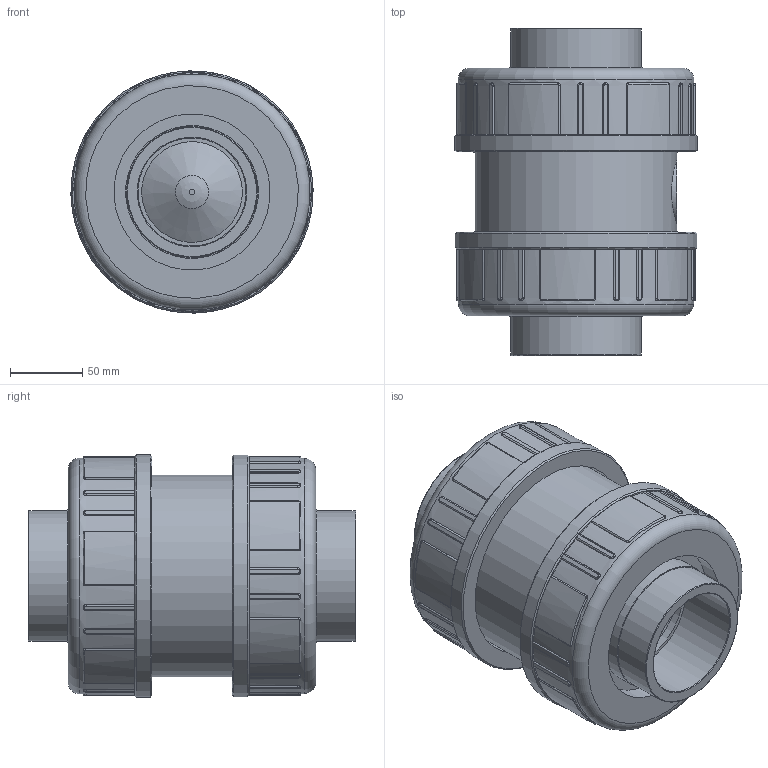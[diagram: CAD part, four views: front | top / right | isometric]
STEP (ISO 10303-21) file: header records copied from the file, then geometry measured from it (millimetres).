
FILE_DESCRIPTION(/* description */ (''),/* implementation_level */ '2;1');
FILE_NAME(/* name */ 'C:\Users\POLYPIPE\Desktop\DATASET INVENTOR\LIBRERIA EFFAST\3D_VALVOLE\3D_VALVOLE NON RITORNO\3D_CV\3D_CDRCVD\3D_CDRCVD0750.stp',/* time_stamp */ '2018-01-24T16:13:02+01:00',/* author */ ('POLYPIPE'),/* organization */ (''),/* preprocessor_version */ 'ST-DEVELOPER v16.1',/* originating_system */ 'Autodesk Inventor 2016',/* authorisation */ '');
FILE_SCHEMA (('CONFIG_CONTROL_DESIGN'));
Products named in the file (1): 3D_CDRCVD0750
Bounding box: 167.96 x 227 x 167.96 mm (x, y, z)
Volume: 2061284.7 mm3; surface area: 422999.4 mm2
Topology: 1 solids, 4 shells, 517 faces, 1293 edges, 815 vertices
Faces by surface type: plane 167, cylinder 152, bspline 146, torus 39, cone 13
Full cylindrical faces by diameter (mm): 69.7 x2, 74 x1, 75 x2, 76.8 x2, 81.4 x1, 81.6 x1, 81.8 x1, 90.5 x2, 91.8 x1, 92 x2, 93.1 x1, 93.6 x1, 95 x1, 108.2 x2, 113.2 x1, 120.6 x1, 121.7 x1, 123.5 x1, 124.5 x1, 132 x2, 139.5 x1, 142.5 x2, 163.5 x2, 168 x2
Entity records: 59794 total; most frequent: CARTESIAN_POINT 47834, ORIENTED_EDGE 2428, DIRECTION 2145, EDGE_CURVE 1212, AXIS2_PLACEMENT_3D 810, VERTEX_POINT 801, EDGE_LOOP 623, LINE 525
